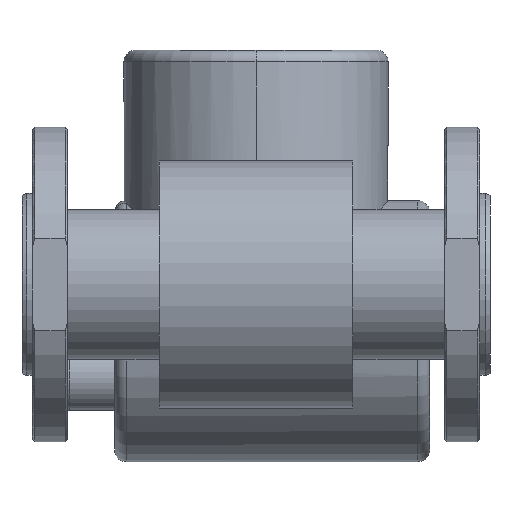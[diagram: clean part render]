
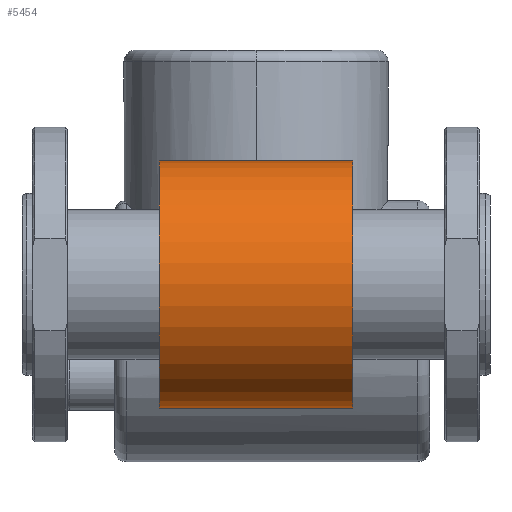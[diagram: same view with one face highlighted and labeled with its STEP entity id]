
A CAD part, front view. The second image highlights one B-rep face of the part: STEP entity #5454.
In plain terms, the highlighted cylindrical face has radius 53 mm (diameter 106 mm), a partial arc.
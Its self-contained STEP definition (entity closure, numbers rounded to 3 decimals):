
#25 = VECTOR ( 'NONE', #4426, 1000. ) ;
#28 = CARTESIAN_POINT ( 'NONE',  ( 110.285, 0., 53. ) ) ;
#64 = AXIS2_PLACEMENT_3D ( 'NONE', #3706, #3048, #905 ) ;
#297 = DIRECTION ( 'NONE',  ( 1., 0., 0. ) ) ;
#709 = ORIENTED_EDGE ( 'NONE', *, *, #3752, .T. ) ;
#905 = DIRECTION ( 'NONE',  ( 0., 0., -1. ) ) ;
#1303 = CARTESIAN_POINT ( 'NONE',  ( 41.5, 0., 53. ) ) ;
#1370 = DIRECTION ( 'NONE',  ( 1., 0., 0. ) ) ;
#1543 = CIRCLE ( 'NONE', #64, 53. ) ;
#1835 = CYLINDRICAL_SURFACE ( 'NONE', #6285, 53. ) ;
#2013 = CARTESIAN_POINT ( 'NONE',  ( 110.285, 0., -53. ) ) ;
#3048 = DIRECTION ( 'NONE',  ( 1., 0., 0. ) ) ;
#3706 = CARTESIAN_POINT ( 'NONE',  ( -41.5, 0., 0. ) ) ;
#3752 = EDGE_CURVE ( 'NONE', #6055, #5452, #1543, .T. ) ;
#3836 = CARTESIAN_POINT ( 'NONE',  ( 110.285, 0., 0. ) ) ;
#3934 = DIRECTION ( 'NONE',  ( 0., 0., -1. ) ) ;
#4104 = ORIENTED_EDGE ( 'NONE', *, *, #6098, .F. ) ;
#4382 = AXIS2_PLACEMENT_3D ( 'NONE', #5939, #297, #3934 ) ;
#4426 = DIRECTION ( 'NONE',  ( 1., 0., 0. ) ) ;
#4678 = ORIENTED_EDGE ( 'NONE', *, *, #5841, .T. ) ;
#4756 = LINE ( 'NONE', #2013, #8117 ) ;
#5128 = CARTESIAN_POINT ( 'NONE',  ( -41.5, 0., -53. ) ) ;
#5290 = CIRCLE ( 'NONE', #4382, 53. ) ;
#5452 = VERTEX_POINT ( 'NONE', #5128 ) ;
#5454 = ADVANCED_FACE ( 'NONE', ( #8241 ), #1835, .T. ) ;
#5666 = CARTESIAN_POINT ( 'NONE',  ( 41.5, 0., -53. ) ) ;
#5841 = EDGE_CURVE ( 'NONE', #5452, #9110, #4756, .T. ) ;
#5939 = CARTESIAN_POINT ( 'NONE',  ( 41.5, 0., 0. ) ) ;
#6055 = VERTEX_POINT ( 'NONE', #7965 ) ;
#6098 = EDGE_CURVE ( 'NONE', #6055, #6909, #6971, .T. ) ;
#6285 = AXIS2_PLACEMENT_3D ( 'NONE', #3836, #8102, #7277 ) ;
#6909 = VERTEX_POINT ( 'NONE', #1303 ) ;
#6971 = LINE ( 'NONE', #28, #25 ) ;
#7277 = DIRECTION ( 'NONE',  ( 0., 0., -1. ) ) ;
#7712 = EDGE_CURVE ( 'NONE', #6909, #9110, #5290, .T. ) ;
#7965 = CARTESIAN_POINT ( 'NONE',  ( -41.5, 0., 53. ) ) ;
#8012 = EDGE_LOOP ( 'NONE', ( #4104, #709, #4678, #9079 ) ) ;
#8102 = DIRECTION ( 'NONE',  ( 1., 0., 0. ) ) ;
#8117 = VECTOR ( 'NONE', #1370, 1000. ) ;
#8241 = FACE_OUTER_BOUND ( 'NONE', #8012, .T. ) ;
#9079 = ORIENTED_EDGE ( 'NONE', *, *, #7712, .F. ) ;
#9110 = VERTEX_POINT ( 'NONE', #5666 ) ;
